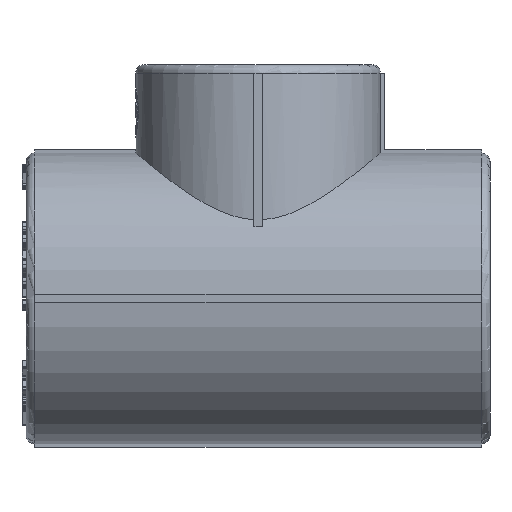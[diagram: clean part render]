
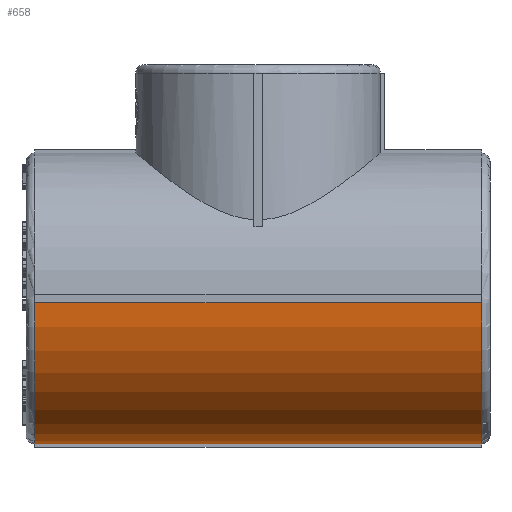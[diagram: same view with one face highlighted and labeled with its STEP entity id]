
A CAD part, left-side view. The second image highlights one B-rep face of the part: STEP entity #658.
In plain terms, the highlighted cylindrical face has radius 17.25 mm (diameter 34.5 mm), a partial arc.
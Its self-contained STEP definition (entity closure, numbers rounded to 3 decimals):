
#658=ADVANCED_FACE('',(#5109),#5111,.T.);
#5109=FACE_BOUND('',#5110,.T.);
#5110=EDGE_LOOP('',(#13001,#13002,#13003,#13004));
#5111=CYLINDRICAL_SURFACE('',#5112,17.25);
#5112=AXIS2_PLACEMENT_3D('',#5113,#5114,#5115);
#5113=CARTESIAN_POINT('',(0.,-27.5,0.));
#5114=DIRECTION('',(0.,1.,0.));
#5115=DIRECTION('',(-1.,0.,0.));
#13001=ORIENTED_EDGE('',*,*,#18427,.F.);
#13002=ORIENTED_EDGE('',*,*,#18428,.T.);
#13003=ORIENTED_EDGE('',*,*,#18429,.F.);
#13004=ORIENTED_EDGE('',*,*,#18386,.F.);
#18386=EDGE_CURVE('',#22634,#22636,#22637,.T.);
#18427=EDGE_CURVE('',#22709,#22634,#22710,.T.);
#18428=EDGE_CURVE('',#22709,#22711,#22712,.T.);
#18429=EDGE_CURVE('',#22636,#22711,#22713,.F.);
#22634=VERTEX_POINT('',#31215);
#22636=VERTEX_POINT('',#31220);
#22637=CIRCLE('',#31221,17.25);
#22709=VERTEX_POINT('',#31657);
#22710=LINE('',#31658,#31659);
#22711=VERTEX_POINT('',#31661);
#22712=CIRCLE('',#31662,17.25);
#22713=LINE('',#31666,#31667);
#31215=CARTESIAN_POINT('',(-0.5,26.5,-17.243));
#31220=CARTESIAN_POINT('',(-17.243,26.5,-0.5));
#31221=AXIS2_PLACEMENT_3D('',#31222,#31223,#31224);
#31222=CARTESIAN_POINT('',(0.,26.5,0.));
#31223=DIRECTION('',(0.,1.,0.));
#31224=DIRECTION('',(-0.029,0.,-1.));
#31657=CARTESIAN_POINT('',(-0.5,-26.5,-17.243));
#31658=CARTESIAN_POINT('',(-0.5,-26.5,-17.243));
#31659=VECTOR('',#31660,1.);
#31660=DIRECTION('',(0.,1.,0.));
#31661=CARTESIAN_POINT('',(-17.243,-26.5,-0.5));
#31662=AXIS2_PLACEMENT_3D('',#31663,#31664,#31665);
#31663=CARTESIAN_POINT('',(0.,-26.5,0.));
#31664=DIRECTION('',(0.,1.,0.));
#31665=DIRECTION('',(-0.029,0.,-1.));
#31666=CARTESIAN_POINT('',(-17.243,-26.5,-0.5));
#31667=VECTOR('',#31668,1.);
#31668=DIRECTION('',(0.,1.,0.));
